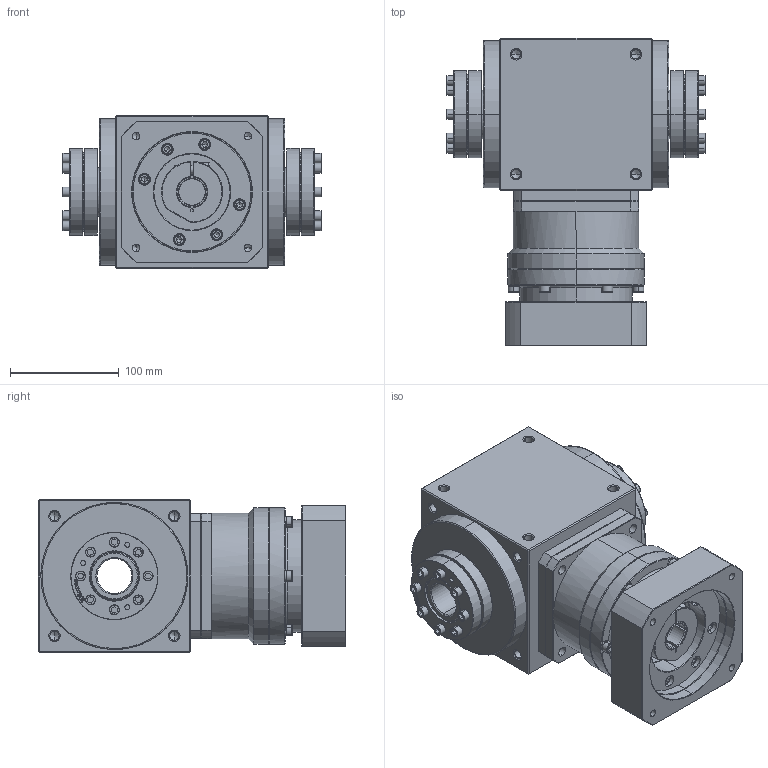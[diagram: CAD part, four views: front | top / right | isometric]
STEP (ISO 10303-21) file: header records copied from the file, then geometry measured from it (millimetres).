
FILE_DESCRIPTION (( 'STEP AP203' ), '1' );
FILE_NAME ('AT140-FC-L1 24-110-145-M8.STEP', '2024-12-24T09:22:50', ( '' ), ( '' ), 'SwSTEP 2.0', 'SolidWorks 2021', '' );
FILE_SCHEMA (( 'CONFIG_CONTROL_DESIGN' ));
Length unit declared in the file: millimetre
Products named in the file (16): 83_44x80-9; 83_44x80-3; AT140-FC-L1-2KW; 83_44x80-10; AT140-FC-L1 24-110-145-M8; 83_44x80; 83_44x80-4; 83_44x80-8; 83_44x80-6; 83_44x80-1; 83_44x80-2; 83_44x80-5; VRB-115-L1-S2-P1 24-110-145-M8; 83_44x80-11; 83_44x80-7
Assembly tree (16 placements, depth 3):
  AT140-FC-L1 24-110-145-M8
    AT140-FC-L1-2KW
    83_44x80  x2
      83_44x80
      83_44x80-1
      83_44x80-2
      83_44x80-3
      83_44x80-4
      83_44x80-5
      83_44x80-6
      83_44x80-7
      83_44x80-8
      83_44x80-9
      83_44x80-10
      83_44x80-11
    VRB-115-L1-S2-P1 24-110-145-M8
Bounding box: 237.2 x 282.5 x 140 mm (x, y, z)
Volume: 4695635.3 mm3; surface area: 433856.9 mm2
Topology: 56 solids, 56 shells, 1984 faces, 4728 edges, 2871 vertices
Faces by surface type: cylinder 768, plane 668, cone 412, bspline 108, torus 28
Entity records: 47243 total; most frequent: CARTESIAN_POINT 10973, DIRECTION 7496, ORIENTED_EDGE 7076, EDGE_CURVE 3538, AXIS2_PLACEMENT_3D 2908, VERTEX_POINT 2197, EDGE_LOOP 1699, VECTOR 1680
